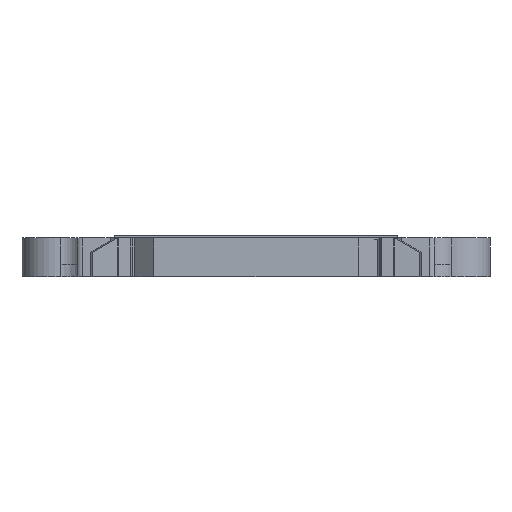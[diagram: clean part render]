
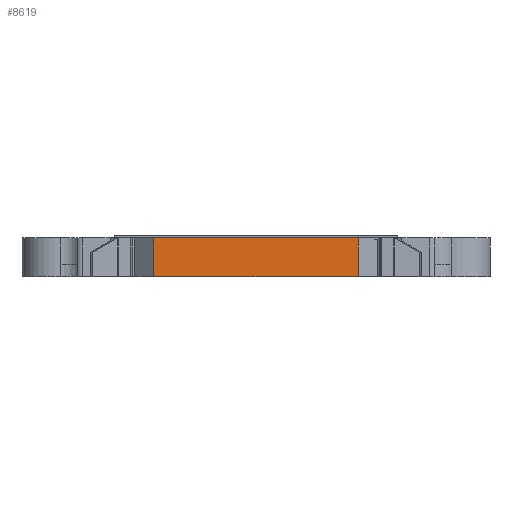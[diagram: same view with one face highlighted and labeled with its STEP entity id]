
A CAD part, front view. The second image highlights one B-rep face of the part: STEP entity #8619.
In plain terms, the highlighted planar face has unit normal (0, -1, 0).
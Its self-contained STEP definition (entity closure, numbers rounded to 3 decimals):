
#72 = PLANE('',#73);
#73 = AXIS2_PLACEMENT_3D('',#74,#75,#76);
#74 = CARTESIAN_POINT('',(11.19,-24.806,9.1));
#75 = DIRECTION('',(0.,0.,1.));
#76 = DIRECTION('',(0.999,-0.035,0.));
#126 = PLANE('',#127);
#127 = AXIS2_PLACEMENT_3D('',#128,#129,#130);
#128 = CARTESIAN_POINT('',(11.19,-24.806,5.9));
#129 = DIRECTION('',(0.,0.,1.));
#130 = DIRECTION('',(0.999,-0.035,0.));
#3041 = PLANE('',#3042);
#3042 = AXIS2_PLACEMENT_3D('',#3043,#3044,#3045);
#3043 = CARTESIAN_POINT('',(-11.522,-32.502,5.9));
#3044 = DIRECTION('',(0.695,0.719,-0.));
#3045 = DIRECTION('',(0.719,-0.695,0.));
#3054 = VERTEX_POINT('',#3055);
#3055 = CARTESIAN_POINT('',(-8.417,-35.5,5.9));
#3076 = EDGE_CURVE('',#3054,#3077,#3079,.T.);
#3077 = VERTEX_POINT('',#3078);
#3078 = CARTESIAN_POINT('',(8.417,-35.5,5.9));
#3079 = SURFACE_CURVE('',#3080,(#3084,#3091),.PCURVE_S1.);
#3080 = LINE('',#3081,#3082);
#3081 = CARTESIAN_POINT('',(-10.533,-35.5,5.9));
#3082 = VECTOR('',#3083,1.);
#3083 = DIRECTION('',(1.,0.,0.));
#3084 = PCURVE('',#126,#3085);
#3085 = DEFINITIONAL_REPRESENTATION('',(#3086),#3090);
#3086 = LINE('',#3087,#3088);
#3087 = CARTESIAN_POINT('',(-21.337,-11.446));
#3088 = VECTOR('',#3089,1.);
#3089 = DIRECTION('',(0.999,0.035));
#3090 = ( GEOMETRIC_REPRESENTATION_CONTEXT(2) 
PARAMETRIC_REPRESENTATION_CONTEXT() REPRESENTATION_CONTEXT('2D SPACE',''
  ) );
#3091 = PCURVE('',#3092,#3097);
#3092 = PLANE('',#3093);
#3093 = AXIS2_PLACEMENT_3D('',#3094,#3095,#3096);
#3094 = CARTESIAN_POINT('',(-11.417,-35.5,6.9));
#3095 = DIRECTION('',(0.,1.,0.));
#3096 = DIRECTION('',(1.,0.,0.));
#3097 = DEFINITIONAL_REPRESENTATION('',(#3098),#3102);
#3098 = LINE('',#3099,#3100);
#3099 = CARTESIAN_POINT('',(0.883,1.));
#3100 = VECTOR('',#3101,1.);
#3101 = DIRECTION('',(1.,0.));
#3102 = ( GEOMETRIC_REPRESENTATION_CONTEXT(2) 
PARAMETRIC_REPRESENTATION_CONTEXT() REPRESENTATION_CONTEXT('2D SPACE',''
  ) );
#3120 = PLANE('',#3121);
#3121 = AXIS2_PLACEMENT_3D('',#3122,#3123,#3124);
#3122 = CARTESIAN_POINT('',(11.522,-32.502,5.9));
#3123 = DIRECTION('',(0.695,-0.719,0.));
#3124 = DIRECTION('',(-0.719,-0.695,0.));
#8577 = VERTEX_POINT('',#8578);
#8578 = CARTESIAN_POINT('',(8.417,-35.5,9.1));
#8599 = EDGE_CURVE('',#8577,#3077,#8600,.T.);
#8600 = SURFACE_CURVE('',#8601,(#8605,#8612),.PCURVE_S1.);
#8601 = LINE('',#8602,#8603);
#8602 = CARTESIAN_POINT('',(8.417,-35.5,9.1));
#8603 = VECTOR('',#8604,1.);
#8604 = DIRECTION('',(0.,0.,-1.));
#8605 = PCURVE('',#3120,#8606);
#8606 = DEFINITIONAL_REPRESENTATION('',(#8607),#8611);
#8607 = LINE('',#8608,#8609);
#8608 = CARTESIAN_POINT('',(4.316,-3.2));
#8609 = VECTOR('',#8610,1.);
#8610 = DIRECTION('',(-0.,1.));
#8611 = ( GEOMETRIC_REPRESENTATION_CONTEXT(2) 
PARAMETRIC_REPRESENTATION_CONTEXT() REPRESENTATION_CONTEXT('2D SPACE',''
  ) );
#8612 = PCURVE('',#3092,#8613);
#8613 = DEFINITIONAL_REPRESENTATION('',(#8614),#8618);
#8614 = LINE('',#8615,#8616);
#8615 = CARTESIAN_POINT('',(19.834,-2.2));
#8616 = VECTOR('',#8617,1.);
#8617 = DIRECTION('',(0.,1.));
#8618 = ( GEOMETRIC_REPRESENTATION_CONTEXT(2) 
PARAMETRIC_REPRESENTATION_CONTEXT() REPRESENTATION_CONTEXT('2D SPACE',''
  ) );
#8619 = ADVANCED_FACE('',(#8620),#3092,.F.);
#8620 = FACE_BOUND('',#8621,.F.);
#8621 = EDGE_LOOP('',(#8622,#8623,#8646,#8667));
#8622 = ORIENTED_EDGE('',*,*,#3076,.F.);
#8623 = ORIENTED_EDGE('',*,*,#8624,.F.);
#8624 = EDGE_CURVE('',#8625,#3054,#8627,.T.);
#8625 = VERTEX_POINT('',#8626);
#8626 = CARTESIAN_POINT('',(-8.417,-35.5,9.1));
#8627 = SURFACE_CURVE('',#8628,(#8632,#8639),.PCURVE_S1.);
#8628 = LINE('',#8629,#8630);
#8629 = CARTESIAN_POINT('',(-8.417,-35.5,9.1));
#8630 = VECTOR('',#8631,1.);
#8631 = DIRECTION('',(0.,0.,-1.));
#8632 = PCURVE('',#3092,#8633);
#8633 = DEFINITIONAL_REPRESENTATION('',(#8634),#8638);
#8634 = LINE('',#8635,#8636);
#8635 = CARTESIAN_POINT('',(3.,-2.2));
#8636 = VECTOR('',#8637,1.);
#8637 = DIRECTION('',(0.,1.));
#8638 = ( GEOMETRIC_REPRESENTATION_CONTEXT(2) 
PARAMETRIC_REPRESENTATION_CONTEXT() REPRESENTATION_CONTEXT('2D SPACE',''
  ) );
#8639 = PCURVE('',#3041,#8640);
#8640 = DEFINITIONAL_REPRESENTATION('',(#8641),#8645);
#8641 = LINE('',#8642,#8643);
#8642 = CARTESIAN_POINT('',(4.316,-3.2));
#8643 = VECTOR('',#8644,1.);
#8644 = DIRECTION('',(0.,1.));
#8645 = ( GEOMETRIC_REPRESENTATION_CONTEXT(2) 
PARAMETRIC_REPRESENTATION_CONTEXT() REPRESENTATION_CONTEXT('2D SPACE',''
  ) );
#8646 = ORIENTED_EDGE('',*,*,#8647,.T.);
#8647 = EDGE_CURVE('',#8625,#8577,#8648,.T.);
#8648 = SURFACE_CURVE('',#8649,(#8653,#8660),.PCURVE_S1.);
#8649 = LINE('',#8650,#8651);
#8650 = CARTESIAN_POINT('',(-12.208,-35.5,9.1));
#8651 = VECTOR('',#8652,1.);
#8652 = DIRECTION('',(1.,0.,0.));
#8653 = PCURVE('',#3092,#8654);
#8654 = DEFINITIONAL_REPRESENTATION('',(#8655),#8659);
#8655 = LINE('',#8656,#8657);
#8656 = CARTESIAN_POINT('',(-0.792,-2.2));
#8657 = VECTOR('',#8658,1.);
#8658 = DIRECTION('',(1.,0.));
#8659 = ( GEOMETRIC_REPRESENTATION_CONTEXT(2) 
PARAMETRIC_REPRESENTATION_CONTEXT() REPRESENTATION_CONTEXT('2D SPACE',''
  ) );
#8660 = PCURVE('',#72,#8661);
#8661 = DEFINITIONAL_REPRESENTATION('',(#8662),#8666);
#8662 = LINE('',#8663,#8664);
#8663 = CARTESIAN_POINT('',(-23.011,-11.504));
#8664 = VECTOR('',#8665,1.);
#8665 = DIRECTION('',(0.999,0.035));
#8666 = ( GEOMETRIC_REPRESENTATION_CONTEXT(2) 
PARAMETRIC_REPRESENTATION_CONTEXT() REPRESENTATION_CONTEXT('2D SPACE',''
  ) );
#8667 = ORIENTED_EDGE('',*,*,#8599,.T.);
